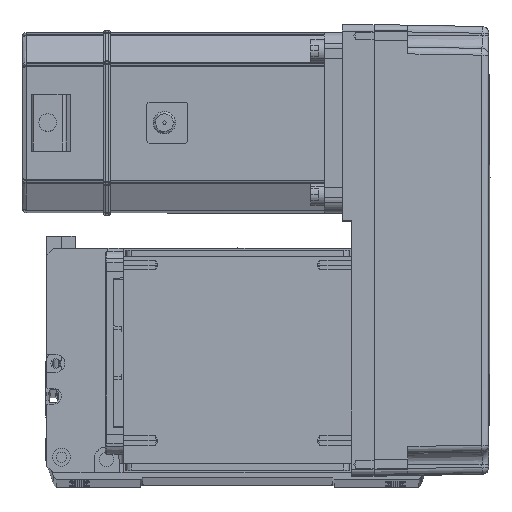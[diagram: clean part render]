
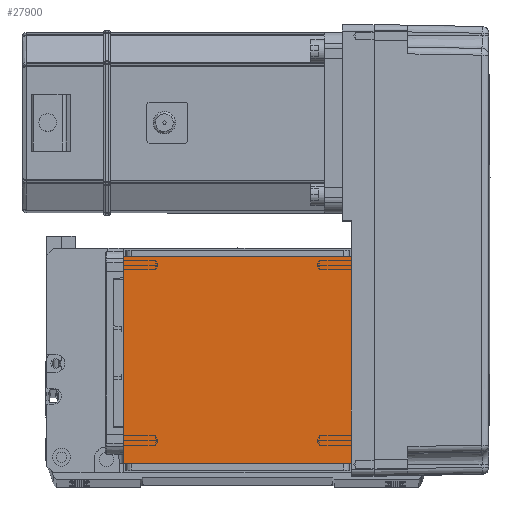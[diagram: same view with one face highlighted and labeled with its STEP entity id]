
A CAD part, top view. The second image highlights one B-rep face of the part: STEP entity #27900.
In plain terms, the highlighted planar face has unit normal (0, 0, 1).
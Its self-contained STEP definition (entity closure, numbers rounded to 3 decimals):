
#5895 = CARTESIAN_POINT ( 'NONE',  ( 50.5, 122., 115. ) ) ;
#6892 = CARTESIAN_POINT ( 'NONE',  ( -70.004, 20., 115. ) ) ;
#9375 = VERTEX_POINT ( 'NONE', #23730 ) ;
#10649 = CARTESIAN_POINT ( 'NONE',  ( 50.5, 20., 115. ) ) ;
#13257 = DIRECTION ( 'NONE',  ( 0., 0., 1. ) ) ;
#15170 = CARTESIAN_POINT ( 'NONE',  ( -50.5, 122., 115. ) ) ;
#16284 = EDGE_LOOP ( 'NONE', ( #23637, #40549, #57409, #31830 ) ) ;
#19587 = DIRECTION ( 'NONE',  ( 0., -1., 0. ) ) ;
#19642 = VERTEX_POINT ( 'NONE', #32740 ) ;
#19796 = VECTOR ( 'NONE', #20257, 1000. ) ;
#20257 = DIRECTION ( 'NONE',  ( 1., 0., 0. ) ) ;
#23637 = ORIENTED_EDGE ( 'NONE', *, *, #36345, .F. ) ;
#23730 = CARTESIAN_POINT ( 'NONE',  ( -50.5, 111.5, 115. ) ) ;
#25023 = VECTOR ( 'NONE', #35105, 1000. ) ;
#25879 = EDGE_CURVE ( 'NONE', #9375, #40293, #40055, .T. ) ;
#27182 = LINE ( 'NONE', #6892, #56285 ) ;
#27383 = VECTOR ( 'NONE', #19587, 1000. ) ;
#27900 = ADVANCED_FACE ( 'NONE', ( #48742 ), #51696, .T. ) ;
#28317 = DIRECTION ( 'NONE',  ( 1., 0., 0. ) ) ;
#31830 = ORIENTED_EDGE ( 'NONE', *, *, #52435, .T. ) ;
#32740 = CARTESIAN_POINT ( 'NONE',  ( 50.5, 111.5, 115. ) ) ;
#35088 = CARTESIAN_POINT ( 'NONE',  ( -70.004, 111.5, 115. ) ) ;
#35105 = DIRECTION ( 'NONE',  ( 0., 1., 0. ) ) ;
#36345 = EDGE_CURVE ( 'NONE', #9375, #19642, #61688, .T. ) ;
#36803 = CARTESIAN_POINT ( 'NONE',  ( -50.5, 20., 115. ) ) ;
#40055 = LINE ( 'NONE', #15170, #27383 ) ;
#40293 = VERTEX_POINT ( 'NONE', #36803 ) ;
#40549 = ORIENTED_EDGE ( 'NONE', *, *, #25879, .T. ) ;
#41589 = AXIS2_PLACEMENT_3D ( 'NONE', #61534, #13257, #28317 ) ;
#44829 = EDGE_CURVE ( 'NONE', #52909, #40293, #27182, .T. ) ;
#48742 = FACE_OUTER_BOUND ( 'NONE', #16284, .T. ) ;
#50499 = LINE ( 'NONE', #5895, #25023 ) ;
#51696 = PLANE ( 'NONE',  #41589 ) ;
#52435 = EDGE_CURVE ( 'NONE', #52909, #19642, #50499, .T. ) ;
#52909 = VERTEX_POINT ( 'NONE', #10649 ) ;
#56285 = VECTOR ( 'NONE', #59325, 1000. ) ;
#57409 = ORIENTED_EDGE ( 'NONE', *, *, #44829, .F. ) ;
#59325 = DIRECTION ( 'NONE',  ( -1., 0., 0. ) ) ;
#61534 = CARTESIAN_POINT ( 'NONE',  ( 0., 0., 115. ) ) ;
#61688 = LINE ( 'NONE', #35088, #19796 ) ;
